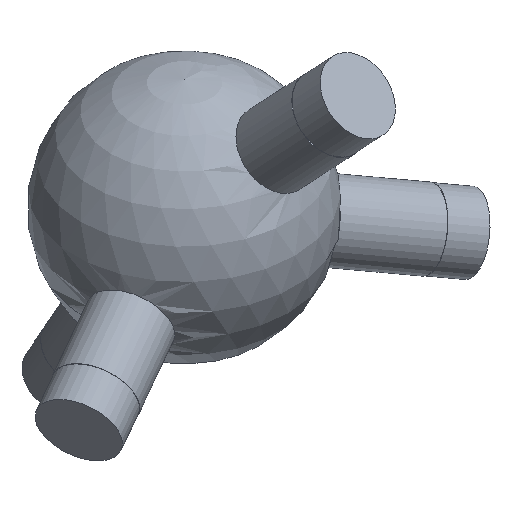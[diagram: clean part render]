
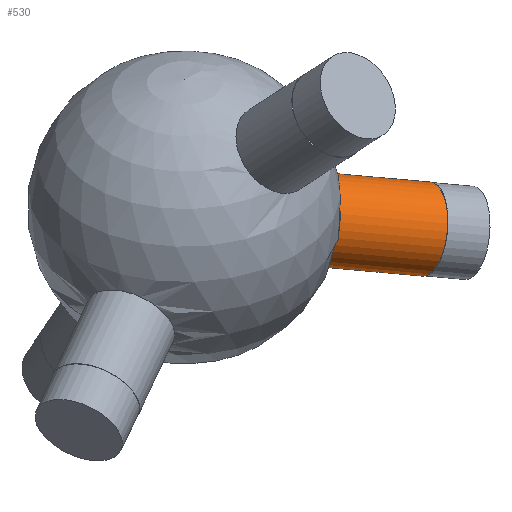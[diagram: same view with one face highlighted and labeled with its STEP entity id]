
A CAD part, isometric view. The second image highlights one B-rep face of the part: STEP entity #530.
In plain terms, the highlighted cylindrical face has radius 6 mm (diameter 12 mm), a full revolution.
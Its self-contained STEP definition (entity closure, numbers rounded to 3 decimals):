
#35 = SPHERICAL_SURFACE('',#36,20.);
#36 = AXIS2_PLACEMENT_3D('',#37,#38,#39);
#37 = CARTESIAN_POINT('',(0.,0.,0.));
#38 = DIRECTION('',(0.,0.,1.));
#39 = DIRECTION('',(1.,0.,-0.));
#244 = EDGE_CURVE('',#245,#245,#247,.T.);
#245 = VERTEX_POINT('',#246);
#246 = CARTESIAN_POINT('',(18.895,-2.495,
    -6.063));
#247 = SURFACE_CURVE('',#248,(#253,#315),.PCURVE_S1.);
#248 = CIRCLE('',#249,6.);
#249 = AXIS2_PLACEMENT_3D('',#250,#251,#252);
#250 = CARTESIAN_POINT('',(16.277,-7.894,
    -6.063));
#251 = DIRECTION('',(0.853,-0.414,-0.318));
#252 = DIRECTION('',(0.436,0.9,0.)
  );
#253 = PCURVE('',#35,#254);
#254 = DEFINITIONAL_REPRESENTATION('',(#255),#314);
#255 = B_SPLINE_CURVE_WITH_KNOTS('',8,(#256,#257,#258,#259,#260,#261,
    #262,#263,#264,#265,#266,#267,#268,#269,#270,#271,#272,#273,#274,
    #275,#276,#277,#278,#279,#280,#281,#282,#283,#284,#285,#286,#287,
    #288,#289,#290,#291,#292,#293,#294,#295,#296,#297,#298,#299,#300,
    #301,#302,#303,#304,#305,#306,#307,#308,#309,#310,#311,#312,#313),
  .UNSPECIFIED.,.F.,.F.,(9,7,7,7,7,7,7,7,9),(0.,0.785,
    1.473,2.675,3.577,4.254,
    4.761,5.522,6.283),.UNSPECIFIED.);
#256 = CARTESIAN_POINT('',(6.152,-0.308));
#257 = CARTESIAN_POINT('',(6.149,-0.279));
#258 = CARTESIAN_POINT('',(6.142,-0.25));
#259 = CARTESIAN_POINT('',(6.133,-0.221));
#260 = CARTESIAN_POINT('',(6.121,-0.194));
#261 = CARTESIAN_POINT('',(6.106,-0.168));
#262 = CARTESIAN_POINT('',(6.088,-0.144));
#263 = CARTESIAN_POINT('',(6.068,-0.122));
#264 = CARTESIAN_POINT('',(6.027,-0.085));
#265 = CARTESIAN_POINT('',(6.007,-0.069));
#266 = CARTESIAN_POINT('',(5.985,-0.055));
#267 = CARTESIAN_POINT('',(5.961,-0.044));
#268 = CARTESIAN_POINT('',(5.937,-0.034));
#269 = CARTESIAN_POINT('',(5.912,-0.027));
#270 = CARTESIAN_POINT('',(5.887,-0.022));
#271 = CARTESIAN_POINT('',(5.816,-0.016));
#272 = CARTESIAN_POINT('',(5.771,-0.019));
#273 = CARTESIAN_POINT('',(5.726,-0.03));
#274 = CARTESIAN_POINT('',(5.683,-0.047));
#275 = CARTESIAN_POINT('',(5.644,-0.072));
#276 = CARTESIAN_POINT('',(5.609,-0.102));
#277 = CARTESIAN_POINT('',(5.579,-0.137));
#278 = CARTESIAN_POINT('',(5.538,-0.205));
#279 = CARTESIAN_POINT('',(5.524,-0.236));
#280 = CARTESIAN_POINT('',(5.514,-0.269));
#281 = CARTESIAN_POINT('',(5.508,-0.303));
#282 = CARTESIAN_POINT('',(5.506,-0.337));
#283 = CARTESIAN_POINT('',(5.508,-0.371));
#284 = CARTESIAN_POINT('',(5.515,-0.405));
#285 = CARTESIAN_POINT('',(5.536,-0.461));
#286 = CARTESIAN_POINT('',(5.547,-0.484));
#287 = CARTESIAN_POINT('',(5.561,-0.507));
#288 = CARTESIAN_POINT('',(5.578,-0.527));
#289 = CARTESIAN_POINT('',(5.598,-0.547));
#290 = CARTESIAN_POINT('',(5.62,-0.564));
#291 = CARTESIAN_POINT('',(5.644,-0.579));
#292 = CARTESIAN_POINT('',(5.691,-0.602));
#293 = CARTESIAN_POINT('',(5.712,-0.61));
#294 = CARTESIAN_POINT('',(5.733,-0.617));
#295 = CARTESIAN_POINT('',(5.756,-0.622));
#296 = CARTESIAN_POINT('',(5.779,-0.626));
#297 = CARTESIAN_POINT('',(5.803,-0.628));
#298 = CARTESIAN_POINT('',(5.826,-0.629));
#299 = CARTESIAN_POINT('',(5.885,-0.626));
#300 = CARTESIAN_POINT('',(5.92,-0.621));
#301 = CARTESIAN_POINT('',(5.954,-0.612));
#302 = CARTESIAN_POINT('',(5.986,-0.6));
#303 = CARTESIAN_POINT('',(6.015,-0.584));
#304 = CARTESIAN_POINT('',(6.042,-0.566));
#305 = CARTESIAN_POINT('',(6.065,-0.545));
#306 = CARTESIAN_POINT('',(6.105,-0.5));
#307 = CARTESIAN_POINT('',(6.122,-0.476));
#308 = CARTESIAN_POINT('',(6.135,-0.449));
#309 = CARTESIAN_POINT('',(6.145,-0.422));
#310 = CARTESIAN_POINT('',(6.152,-0.394));
#311 = CARTESIAN_POINT('',(6.155,-0.365));
#312 = CARTESIAN_POINT('',(6.155,-0.336));
#313 = CARTESIAN_POINT('',(6.152,-0.308));
#314 = ( GEOMETRIC_REPRESENTATION_CONTEXT(2) 
PARAMETRIC_REPRESENTATION_CONTEXT() REPRESENTATION_CONTEXT('2D SPACE',''
  ) );
#315 = PCURVE('',#316,#321);
#316 = CYLINDRICAL_SURFACE('',#317,6.);
#317 = AXIS2_PLACEMENT_3D('',#318,#319,#320);
#318 = CARTESIAN_POINT('',(0.,0.,0.));
#319 = DIRECTION('',(0.853,-0.414,-0.318));
#320 = DIRECTION('',(0.436,0.9,0.)
  );
#321 = DEFINITIONAL_REPRESENTATION('',(#322),#326);
#322 = LINE('',#323,#324);
#323 = CARTESIAN_POINT('',(0.,19.079));
#324 = VECTOR('',#325,1.);
#325 = DIRECTION('',(1.,0.));
#326 = ( GEOMETRIC_REPRESENTATION_CONTEXT(2) 
PARAMETRIC_REPRESENTATION_CONTEXT() REPRESENTATION_CONTEXT('2D SPACE',''
  ) );
#530 = ADVANCED_FACE('',(#531),#316,.T.);
#531 = FACE_BOUND('',#532,.T.);
#532 = EDGE_LOOP('',(#533,#556,#583,#584));
#533 = ORIENTED_EDGE('',*,*,#534,.T.);
#534 = EDGE_CURVE('',#245,#535,#537,.T.);
#535 = VERTEX_POINT('',#536);
#536 = CARTESIAN_POINT('',(31.968,-8.836,
    -10.932));
#537 = SEAM_CURVE('',#538,(#542,#549),.PCURVE_S1.);
#538 = LINE('',#539,#540);
#539 = CARTESIAN_POINT('',(2.618,5.399,
    0.));
#540 = VECTOR('',#541,1.);
#541 = DIRECTION('',(0.853,-0.414,-0.318));
#542 = PCURVE('',#316,#543);
#543 = DEFINITIONAL_REPRESENTATION('',(#544),#548);
#544 = LINE('',#545,#546);
#545 = CARTESIAN_POINT('',(6.283,-0.));
#546 = VECTOR('',#547,1.);
#547 = DIRECTION('',(0.,1.));
#548 = ( GEOMETRIC_REPRESENTATION_CONTEXT(2) 
PARAMETRIC_REPRESENTATION_CONTEXT() REPRESENTATION_CONTEXT('2D SPACE',''
  ) );
#549 = PCURVE('',#316,#550);
#550 = DEFINITIONAL_REPRESENTATION('',(#551),#555);
#551 = LINE('',#552,#553);
#552 = CARTESIAN_POINT('',(0.,-0.));
#553 = VECTOR('',#554,1.);
#554 = DIRECTION('',(0.,1.));
#555 = ( GEOMETRIC_REPRESENTATION_CONTEXT(2) 
PARAMETRIC_REPRESENTATION_CONTEXT() REPRESENTATION_CONTEXT('2D SPACE',''
  ) );
#556 = ORIENTED_EDGE('',*,*,#557,.F.);
#557 = EDGE_CURVE('',#535,#535,#558,.T.);
#558 = SURFACE_CURVE('',#559,(#564,#571),.PCURVE_S1.);
#559 = CIRCLE('',#560,6.);
#560 = AXIS2_PLACEMENT_3D('',#561,#562,#563);
#561 = CARTESIAN_POINT('',(29.35,-14.234,
    -10.932));
#562 = DIRECTION('',(0.853,-0.414,-0.318));
#563 = DIRECTION('',(0.436,0.9,0.));
#564 = PCURVE('',#316,#565);
#565 = DEFINITIONAL_REPRESENTATION('',(#566),#570);
#566 = LINE('',#567,#568);
#567 = CARTESIAN_POINT('',(0.,34.403));
#568 = VECTOR('',#569,1.);
#569 = DIRECTION('',(1.,0.));
#570 = ( GEOMETRIC_REPRESENTATION_CONTEXT(2) 
PARAMETRIC_REPRESENTATION_CONTEXT() REPRESENTATION_CONTEXT('2D SPACE',''
  ) );
#571 = PCURVE('',#572,#577);
#572 = PLANE('',#573);
#573 = AXIS2_PLACEMENT_3D('',#574,#575,#576);
#574 = CARTESIAN_POINT('',(29.35,-14.234,
    -10.932));
#575 = DIRECTION('',(0.853,-0.414,-0.318));
#576 = DIRECTION('',(0.436,0.9,0.)
  );
#577 = DEFINITIONAL_REPRESENTATION('',(#578),#582);
#578 = CIRCLE('',#579,6.);
#579 = AXIS2_PLACEMENT_2D('',#580,#581);
#580 = CARTESIAN_POINT('',(0.,0.));
#581 = DIRECTION('',(1.,0.));
#582 = ( GEOMETRIC_REPRESENTATION_CONTEXT(2) 
PARAMETRIC_REPRESENTATION_CONTEXT() REPRESENTATION_CONTEXT('2D SPACE',''
  ) );
#583 = ORIENTED_EDGE('',*,*,#534,.F.);
#584 = ORIENTED_EDGE('',*,*,#244,.T.);
